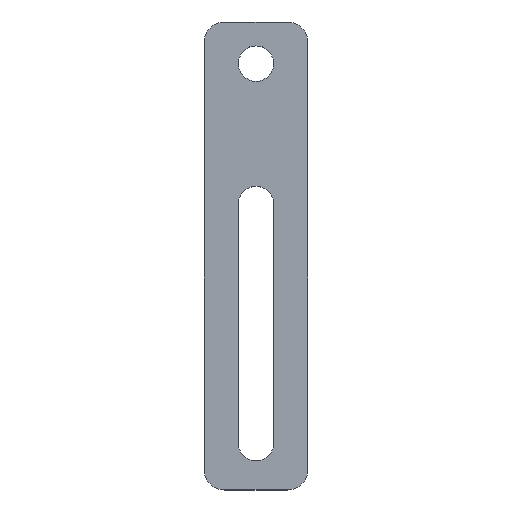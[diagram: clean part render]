
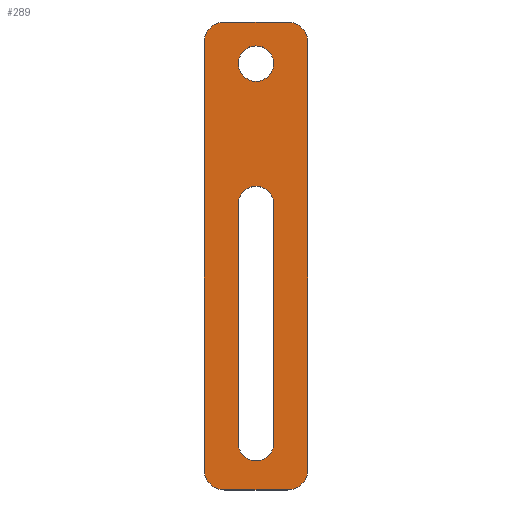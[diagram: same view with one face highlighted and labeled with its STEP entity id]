
A CAD part, top view. The second image highlights one B-rep face of the part: STEP entity #289.
In plain terms, the highlighted planar face has unit normal (0, 0, 1).
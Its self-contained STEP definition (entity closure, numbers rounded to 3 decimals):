
#17=FACE_BOUND('',#59,.T.);
#18=FACE_BOUND('',#60,.T.);
#26=PLANE('',#341);
#41=FACE_OUTER_BOUND('',#58,.T.);
#58=EDGE_LOOP('',(#255,#256,#257,#258,#259,#260,#261,#262));
#59=EDGE_LOOP('',(#263,#264,#265,#266));
#60=EDGE_LOOP('',(#267));
#65=LINE('',#442,#90);
#73=LINE('',#472,#98);
#76=LINE('',#480,#101);
#80=LINE('',#493,#105);
#83=LINE('',#500,#108);
#85=LINE('',#506,#110);
#90=VECTOR('',#356,10.);
#98=VECTOR('',#384,10.);
#101=VECTOR('',#393,10.);
#105=VECTOR('',#407,10.);
#108=VECTOR('',#416,10.);
#110=VECTOR('',#424,10.);
#111=CIRCLE('',#314,5.);
#119=CIRCLE('',#325,5.);
#120=CIRCLE('',#328,5.);
#121=CIRCLE('',#331,5.);
#122=CIRCLE('',#333,4.25);
#123=CIRCLE('',#336,4.25);
#124=CIRCLE('',#339,4.25);
#125=VERTEX_POINT('',#429);
#126=VERTEX_POINT('',#430);
#130=VERTEX_POINT('',#440);
#141=VERTEX_POINT('',#466);
#142=VERTEX_POINT('',#470);
#143=VERTEX_POINT('',#474);
#144=VERTEX_POINT('',#478);
#145=VERTEX_POINT('',#482);
#146=VERTEX_POINT('',#486);
#147=VERTEX_POINT('',#487);
#148=VERTEX_POINT('',#492);
#149=VERTEX_POINT('',#496);
#150=VERTEX_POINT('',#502);
#151=EDGE_CURVE('',#125,#126,#111,.T.);
#157=EDGE_CURVE('',#130,#125,#65,.T.);
#169=EDGE_CURVE('',#141,#130,#119,.T.);
#172=EDGE_CURVE('',#142,#141,#73,.T.);
#173=EDGE_CURVE('',#143,#142,#120,.T.);
#176=EDGE_CURVE('',#144,#143,#76,.T.);
#177=EDGE_CURVE('',#145,#144,#121,.T.);
#179=EDGE_CURVE('',#146,#147,#122,.T.);
#182=EDGE_CURVE('',#147,#148,#80,.T.);
#184=EDGE_CURVE('',#148,#149,#123,.T.);
#186=EDGE_CURVE('',#149,#146,#83,.T.);
#188=EDGE_CURVE('',#150,#150,#124,.T.);
#189=EDGE_CURVE('',#126,#145,#85,.T.);
#255=ORIENTED_EDGE('',*,*,#151,.F.);
#256=ORIENTED_EDGE('',*,*,#157,.F.);
#257=ORIENTED_EDGE('',*,*,#169,.F.);
#258=ORIENTED_EDGE('',*,*,#172,.F.);
#259=ORIENTED_EDGE('',*,*,#173,.F.);
#260=ORIENTED_EDGE('',*,*,#176,.F.);
#261=ORIENTED_EDGE('',*,*,#177,.F.);
#262=ORIENTED_EDGE('',*,*,#189,.F.);
#263=ORIENTED_EDGE('',*,*,#179,.T.);
#264=ORIENTED_EDGE('',*,*,#182,.T.);
#265=ORIENTED_EDGE('',*,*,#184,.T.);
#266=ORIENTED_EDGE('',*,*,#186,.T.);
#267=ORIENTED_EDGE('',*,*,#188,.T.);
#289=ADVANCED_FACE('',(#41,#17,#18),#26,.T.);
#314=AXIS2_PLACEMENT_3D('',#431,#346,#347);
#325=AXIS2_PLACEMENT_3D('',#467,#378,#379);
#328=AXIS2_PLACEMENT_3D('',#475,#387,#388);
#331=AXIS2_PLACEMENT_3D('',#483,#396,#397);
#333=AXIS2_PLACEMENT_3D('',#488,#401,#402);
#336=AXIS2_PLACEMENT_3D('',#497,#411,#412);
#339=AXIS2_PLACEMENT_3D('',#504,#420,#421);
#341=AXIS2_PLACEMENT_3D('',#507,#425,#426);
#346=DIRECTION('center_axis',(0.,0.,-1.));
#347=DIRECTION('ref_axis',(-0.707,-0.707,0.));
#356=DIRECTION('',(-1.,0.,0.));
#378=DIRECTION('center_axis',(0.,0.,-1.));
#379=DIRECTION('ref_axis',(0.707,-0.707,0.));
#384=DIRECTION('',(0.,-1.,0.));
#387=DIRECTION('center_axis',(0.,0.,-1.));
#388=DIRECTION('ref_axis',(0.707,0.707,0.));
#393=DIRECTION('',(1.,0.,0.));
#396=DIRECTION('center_axis',(0.,0.,-1.));
#397=DIRECTION('ref_axis',(-0.707,0.707,0.));
#401=DIRECTION('center_axis',(0.,0.,-1.));
#402=DIRECTION('ref_axis',(1.,0.,0.));
#407=DIRECTION('',(0.,-1.,0.));
#411=DIRECTION('center_axis',(0.,0.,-1.));
#412=DIRECTION('ref_axis',(-1.,0.,0.));
#416=DIRECTION('',(0.,1.,0.));
#420=DIRECTION('center_axis',(0.,0.,-1.));
#421=DIRECTION('ref_axis',(-1.,0.,0.));
#424=DIRECTION('',(0.,1.,0.));
#425=DIRECTION('center_axis',(0.,0.,1.));
#426=DIRECTION('ref_axis',(1.,0.,0.));
#429=CARTESIAN_POINT('',(-7.5,-102.5,5.));
#430=CARTESIAN_POINT('',(-12.5,-97.5,5.));
#431=CARTESIAN_POINT('Origin',(-7.5,-97.5,5.));
#440=CARTESIAN_POINT('',(7.5,-102.5,5.));
#442=CARTESIAN_POINT('',(12.5,-102.5,5.));
#466=CARTESIAN_POINT('',(12.5,-97.5,5.));
#467=CARTESIAN_POINT('Origin',(7.5,-97.5,5.));
#470=CARTESIAN_POINT('',(12.5,5.,5.));
#472=CARTESIAN_POINT('',(12.5,10.,5.));
#474=CARTESIAN_POINT('',(7.5,10.,5.));
#475=CARTESIAN_POINT('Origin',(7.5,5.,5.));
#478=CARTESIAN_POINT('',(-7.5,10.,5.));
#480=CARTESIAN_POINT('',(-12.5,10.,5.));
#482=CARTESIAN_POINT('',(-12.5,5.,5.));
#483=CARTESIAN_POINT('Origin',(-7.5,5.,5.));
#486=CARTESIAN_POINT('',(-4.25,-33.75,5.));
#487=CARTESIAN_POINT('',(4.25,-33.75,5.));
#488=CARTESIAN_POINT('Origin',(0.,-33.75,5.));
#492=CARTESIAN_POINT('',(4.25,-91.25,5.));
#493=CARTESIAN_POINT('',(4.25,-40.,5.));
#496=CARTESIAN_POINT('',(-4.25,-91.25,5.));
#497=CARTESIAN_POINT('Origin',(0.,-91.25,5.));
#500=CARTESIAN_POINT('',(-4.25,-68.75,5.));
#502=CARTESIAN_POINT('',(4.25,0.,5.));
#504=CARTESIAN_POINT('Origin',(0.,0.,5.));
#506=CARTESIAN_POINT('',(-12.5,-102.5,5.));
#507=CARTESIAN_POINT('Origin',(0.,-46.25,5.));
